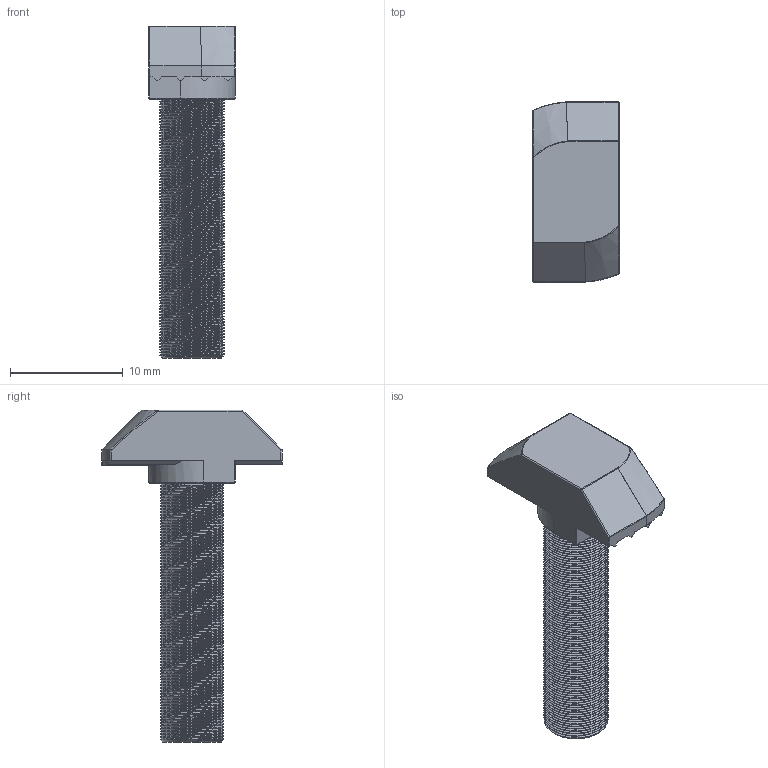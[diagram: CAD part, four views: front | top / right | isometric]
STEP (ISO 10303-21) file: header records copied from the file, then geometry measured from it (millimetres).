
FILE_DESCRIPTION (( 'STEP AP203' ), '1' );
FILE_NAME ('t-bolt 10 slot M8.STEP', '2012-05-29T19:49:14', ( '' ), ( '' ), 'SwSTEP 2.0', 'SolidWorks 2010', '' );
FILE_SCHEMA (( 'CONFIG_CONTROL_DESIGN' ));
Length unit declared in the file: millimetre
Products named in the file (1): t-bolt 10 slot M8
Bounding box: 7.7 x 16 x 29.5 mm (x, y, z)
Volume: 1113 mm3; surface area: 1165.7 mm2
Topology: 1 solids, 1 shells, 311 faces, 880 edges, 561 vertices
Faces by surface type: cylinder 229, plane 38, bspline 28, torus 6, cone 5, sphere 5
Entity records: 26357 total; most frequent: CARTESIAN_POINT 19603, ORIENTED_EDGE 1738, DIRECTION 1082, EDGE_CURVE 869, VERTEX_POINT 561, AXIS2_PLACEMENT_3D 385, VECTOR 312, LINE 312
